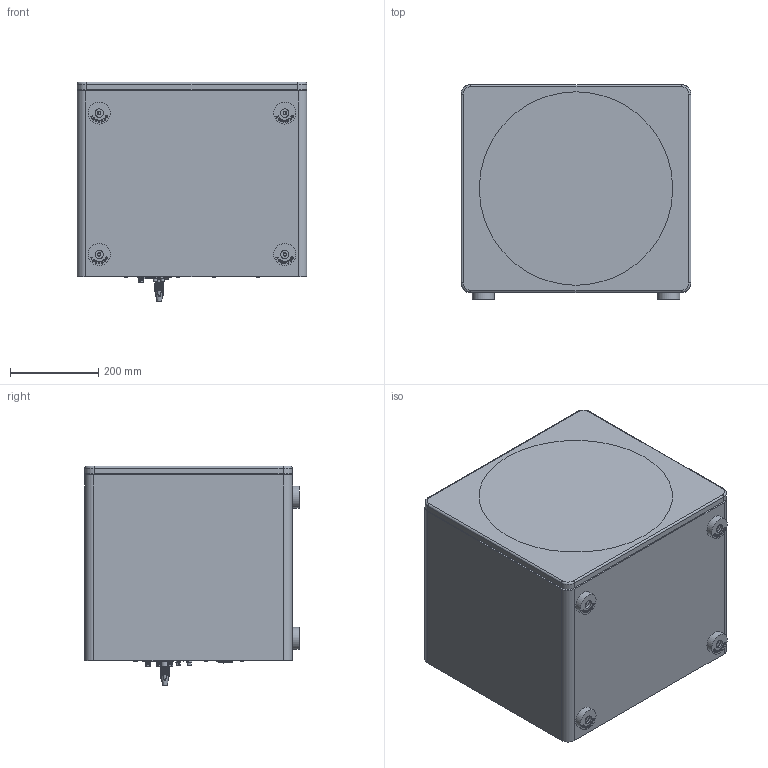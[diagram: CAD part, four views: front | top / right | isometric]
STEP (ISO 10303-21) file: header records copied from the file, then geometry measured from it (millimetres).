
FILE_DESCRIPTION(/* description */ (''),/* implementation_level */ '2;1');
FILE_NAME(/* name */ '3D_THE16 SUB ACTIVE SEALED_Public_SI_Plug.step',/* time_stamp */ '2025-03-28T10:01:12+01:00',/* author */ (''),/* organization */ (''),/* preprocessor_version */ 'ST-DEVELOPER v20.1',/* originating_system */ 'Autodesk Translation Framework v14.4.0.0',/* authorisation */ '');
FILE_SCHEMA (('AUTOMOTIVE_DESIGN { 1 0 10303 214 3 1 1 }'));
Products named in the file (4): The16 SUB active sealed_SUB&Grille; SUB; Grille; 30010466
Assembly tree (3 placements, depth 2):
  The16 SUB active sealed_SUB&Grille
    SUB
    Grille
    30010466
Bounding box: 520 x 485 x 496.94 mm (x, y, z)
Volume: 99385531 mm3; surface area: 2308963.8 mm2
Topology: 3 solids, 121 shells, 3870 faces, 9841 edges, 6501 vertices
Faces by surface type: plane 1904, bspline 891, cylinder 738, cone 253, torus 66, sphere 18
Full cylindrical faces by diameter (mm): 2 x12, 2.3 x3, 2.38 x3, 2.7 x3, 3 x9, 3.2 x2, 3.4 x4, 3.5 x3, 4 x41, 4.5 x11, 5.3 x6, 6 x8, 7.12 x12, 7.2 x3, 7.22 x12, 7.545 x4, 7.581 x4, 8 x4, 8.3 x4, 8.5 x20, 9 x4, 9.7 x4, 10.8 x8, 11 x12, 11.2 x20, 12 x4, 12.4 x3, 13 x4, 15 x4, 15.5 x1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
Entity records: 310912 total; most frequent: CARTESIAN_POINT 221758, ORIENTED_EDGE 19652, DIRECTION 16221, EDGE_CURVE 9826, VERTEX_POINT 6501, AXIS2_PLACEMENT_3D 5562, LINE 5097, VECTOR 5097
